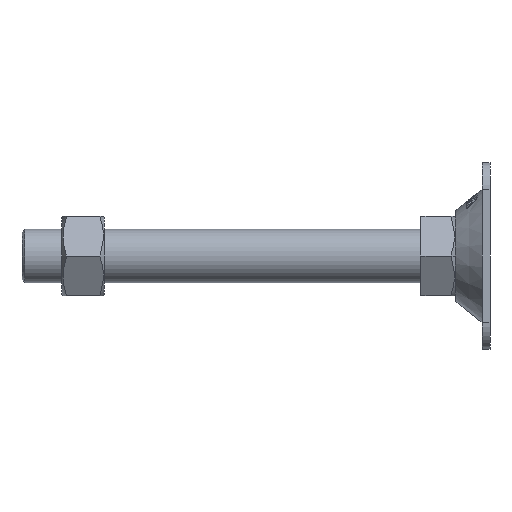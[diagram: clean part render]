
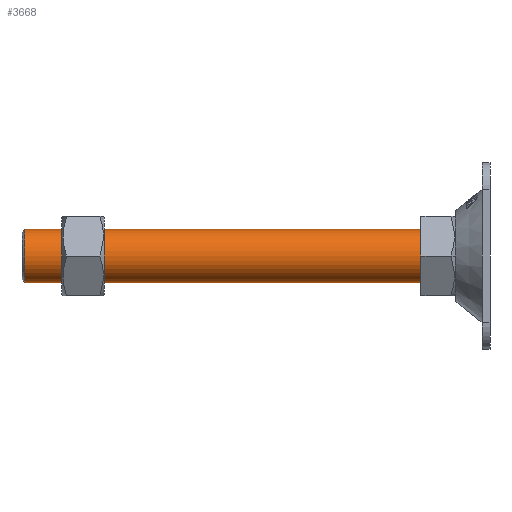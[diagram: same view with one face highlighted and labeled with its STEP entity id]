
A CAD part, left-side view. The second image highlights one B-rep face of the part: STEP entity #3668.
In plain terms, the highlighted cylindrical face has radius 10 mm (diameter 20 mm), a partial arc.
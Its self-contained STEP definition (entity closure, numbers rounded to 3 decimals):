
#98 = FACE_OUTER_BOUND ( 'NONE', #3776, .T. ) ;
#123 = EDGE_CURVE ( 'NONE', #3714, #2258, #4493, .T. ) ;
#421 = CARTESIAN_POINT ( 'NONE',  ( 0., 162., -10. ) ) ;
#442 = VERTEX_POINT ( 'NONE', #5524 ) ;
#600 = CARTESIAN_POINT ( 'NONE',  ( 0., 11., 10. ) ) ;
#1015 = DIRECTION ( 'NONE',  ( 0., -1., 0. ) ) ;
#1106 = CYLINDRICAL_SURFACE ( 'NONE', #2750, 10. ) ;
#1276 = DIRECTION ( 'NONE',  ( 0., 1., 0. ) ) ;
#1499 = ORIENTED_EDGE ( 'NONE', *, *, #4928, .T. ) ;
#1549 = CARTESIAN_POINT ( 'NONE',  ( 0., 162., 10. ) ) ;
#1670 = CARTESIAN_POINT ( 'NONE',  ( 0., 13., -10. ) ) ;
#1675 = EDGE_CURVE ( 'NONE', #2439, #442, #2953, .T. ) ;
#2258 = VERTEX_POINT ( 'NONE', #421 ) ;
#2303 = DIRECTION ( 'NONE',  ( 0., 0., 1. ) ) ;
#2439 = VERTEX_POINT ( 'NONE', #1670 ) ;
#2750 = AXIS2_PLACEMENT_3D ( 'NONE', #3008, #1015, #3942 ) ;
#2886 = ORIENTED_EDGE ( 'NONE', *, *, #1675, .T. ) ;
#2953 = CIRCLE ( 'NONE', #4425, 10. ) ;
#3008 = CARTESIAN_POINT ( 'NONE',  ( 0., 11., 0. ) ) ;
#3018 = ORIENTED_EDGE ( 'NONE', *, *, #123, .T. ) ;
#3370 = LINE ( 'NONE', #600, #3845 ) ;
#3668 = ADVANCED_FACE ( 'NONE', ( #98 ), #1106, .T. ) ;
#3714 = VERTEX_POINT ( 'NONE', #1549 ) ;
#3776 = EDGE_LOOP ( 'NONE', ( #5206, #3018, #1499, #2886 ) ) ;
#3785 = LINE ( 'NONE', #4711, #5712 ) ;
#3845 = VECTOR ( 'NONE', #4325, 1000. ) ;
#3942 = DIRECTION ( 'NONE',  ( 0., 0., -1. ) ) ;
#4325 = DIRECTION ( 'NONE',  ( 0., -1., 0. ) ) ;
#4425 = AXIS2_PLACEMENT_3D ( 'NONE', #5996, #1276, #2303 ) ;
#4493 = CIRCLE ( 'NONE', #5103, 10. ) ;
#4673 = DIRECTION ( 'NONE',  ( 0., 0., -1. ) ) ;
#4711 = CARTESIAN_POINT ( 'NONE',  ( 0., 11., -10. ) ) ;
#4739 = CARTESIAN_POINT ( 'NONE',  ( 0., 162., 0. ) ) ;
#4928 = EDGE_CURVE ( 'NONE', #2258, #2439, #3785, .T. ) ;
#5103 = AXIS2_PLACEMENT_3D ( 'NONE', #4739, #6009, #4673 ) ;
#5206 = ORIENTED_EDGE ( 'NONE', *, *, #5733, .F. ) ;
#5524 = CARTESIAN_POINT ( 'NONE',  ( 0., 13., 10. ) ) ;
#5674 = DIRECTION ( 'NONE',  ( 0., -1., 0. ) ) ;
#5712 = VECTOR ( 'NONE', #5674, 1000. ) ;
#5733 = EDGE_CURVE ( 'NONE', #3714, #442, #3370, .T. ) ;
#5996 = CARTESIAN_POINT ( 'NONE',  ( 0., 13., 0. ) ) ;
#6009 = DIRECTION ( 'NONE',  ( 0., -1., 0. ) ) ;
